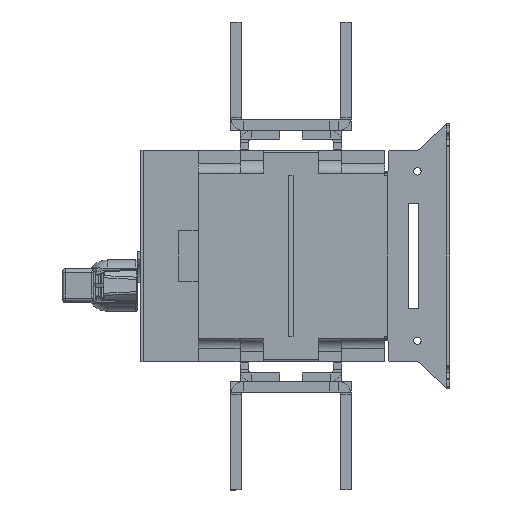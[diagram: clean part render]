
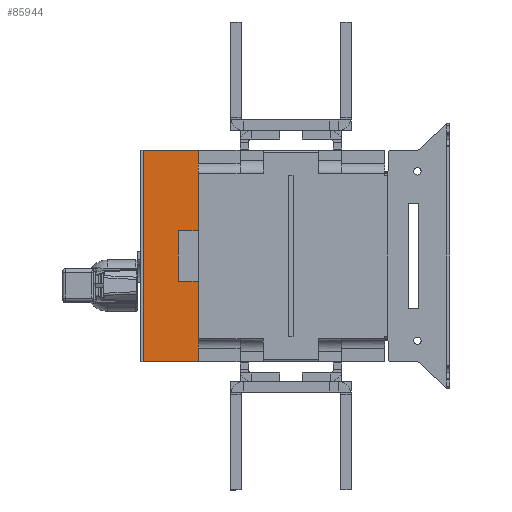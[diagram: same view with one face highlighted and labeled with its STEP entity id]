
A CAD part, left-side view. The second image highlights one B-rep face of the part: STEP entity #85944.
In plain terms, the highlighted planar face has unit normal (-1, 0, -0.001).
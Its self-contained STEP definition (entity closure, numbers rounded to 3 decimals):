
#3318 = CARTESIAN_POINT ( 'NONE',  ( -65.1, 137.5, 100. ) ) ;
#4001 = VECTOR ( 'NONE', #5051, 1000. ) ;
#4702 = EDGE_CURVE ( 'NONE', #95452, #90313, #85842, .T. ) ;
#5051 = DIRECTION ( 'NONE',  ( 0., -1., 0. ) ) ;
#6143 = VECTOR ( 'NONE', #52738, 1000. ) ;
#7891 = EDGE_CURVE ( 'NONE', #96075, #98993, #98636, .T. ) ;
#9108 = LINE ( 'NONE', #95794, #6143 ) ;
#12410 = VERTEX_POINT ( 'NONE', #3318 ) ;
#13150 = ORIENTED_EDGE ( 'NONE', *, *, #98826, .F. ) ;
#13524 = EDGE_CURVE ( 'NONE', #12410, #98993, #9108, .T. ) ;
#15482 = VERTEX_POINT ( 'NONE', #69448 ) ;
#19273 = EDGE_CURVE ( 'NONE', #95452, #12410, #66675, .T. ) ;
#20838 = CARTESIAN_POINT ( 'NONE',  ( -65., 104.2, -100. ) ) ;
#21471 = CARTESIAN_POINT ( 'NONE',  ( -65.038, 137.5, -24. ) ) ;
#23018 = VECTOR ( 'NONE', #41980, 1000. ) ;
#24234 = CARTESIAN_POINT ( 'NONE',  ( -65.062, 85.5, 24. ) ) ;
#25432 = CARTESIAN_POINT ( 'NONE',  ( -65., 137.5, -100. ) ) ;
#27867 = EDGE_LOOP ( 'NONE', ( #81962, #29738, #65506, #99438, #79658, #50183, #13150, #37300 ) ) ;
#29738 = ORIENTED_EDGE ( 'NONE', *, *, #7891, .T. ) ;
#31676 = CARTESIAN_POINT ( 'NONE',  ( -65.1, 85.5, 100. ) ) ;
#32993 = EDGE_CURVE ( 'NONE', #90313, #15482, #104339, .T. ) ;
#34849 = CARTESIAN_POINT ( 'NONE',  ( -65., 137.5, -100. ) ) ;
#37245 = VERTEX_POINT ( 'NONE', #102187 ) ;
#37300 = ORIENTED_EDGE ( 'NONE', *, *, #108480, .T. ) ;
#41273 = CARTESIAN_POINT ( 'NONE',  ( -65.062, 137.5, 24. ) ) ;
#41849 = FACE_OUTER_BOUND ( 'NONE', #27867, .T. ) ;
#41980 = DIRECTION ( 'NONE',  ( 0., 0., 1. ) ) ;
#50183 = ORIENTED_EDGE ( 'NONE', *, *, #32993, .T. ) ;
#52738 = DIRECTION ( 'NONE',  ( 0., -1., 0. ) ) ;
#55433 = DIRECTION ( 'NONE',  ( 0., 0., 1. ) ) ;
#55484 = VECTOR ( 'NONE', #76368, 1000. ) ;
#62831 = LINE ( 'NONE', #21471, #4001 ) ;
#65506 = ORIENTED_EDGE ( 'NONE', *, *, #13524, .F. ) ;
#66579 = VECTOR ( 'NONE', #84259, 1000. ) ;
#66675 = LINE ( 'NONE', #75205, #66579 ) ;
#69381 = DIRECTION ( 'NONE',  ( 0., -1., 0. ) ) ;
#69448 = CARTESIAN_POINT ( 'NONE',  ( -65.038, 85.5, -24. ) ) ;
#71396 = CARTESIAN_POINT ( 'NONE',  ( -65., 85.5, -100. ) ) ;
#72356 = LINE ( 'NONE', #20838, #80201 ) ;
#72527 = VECTOR ( 'NONE', #87865, 1000. ) ;
#75205 = CARTESIAN_POINT ( 'NONE',  ( -65., 137.5, -100. ) ) ;
#76368 = DIRECTION ( 'NONE',  ( 0., 1., 0. ) ) ;
#76416 = PLANE ( 'NONE',  #82513 ) ;
#78301 = VERTEX_POINT ( 'NONE', #110568 ) ;
#78998 = VECTOR ( 'NONE', #69381, 1000. ) ;
#79658 = ORIENTED_EDGE ( 'NONE', *, *, #4702, .T. ) ;
#80201 = VECTOR ( 'NONE', #55433, 1000. ) ;
#81962 = ORIENTED_EDGE ( 'NONE', *, *, #106444, .F. ) ;
#82513 = AXIS2_PLACEMENT_3D ( 'NONE', #25432, #111039, #102573 ) ;
#84259 = DIRECTION ( 'NONE',  ( 0., 0., 1. ) ) ;
#85043 = CARTESIAN_POINT ( 'NONE',  ( -65., 85.5, -100. ) ) ;
#85842 = LINE ( 'NONE', #34849, #78998 ) ;
#85944 = ADVANCED_FACE ( 'NONE', ( #41849 ), #76416, .F. ) ;
#87865 = DIRECTION ( 'NONE',  ( 0., 0., 1. ) ) ;
#88060 = CARTESIAN_POINT ( 'NONE',  ( -65., 137.5, -100. ) ) ;
#90313 = VERTEX_POINT ( 'NONE', #110063 ) ;
#95452 = VERTEX_POINT ( 'NONE', #88060 ) ;
#95794 = CARTESIAN_POINT ( 'NONE',  ( -65.1, 137.5, 100. ) ) ;
#96075 = VERTEX_POINT ( 'NONE', #24234 ) ;
#98636 = LINE ( 'NONE', #71396, #72527 ) ;
#98826 = EDGE_CURVE ( 'NONE', #37245, #15482, #62831, .T. ) ;
#98993 = VERTEX_POINT ( 'NONE', #31676 ) ;
#99438 = ORIENTED_EDGE ( 'NONE', *, *, #19273, .F. ) ;
#102187 = CARTESIAN_POINT ( 'NONE',  ( -65.038, 104.2, -24. ) ) ;
#102536 = LINE ( 'NONE', #41273, #55484 ) ;
#102573 = DIRECTION ( 'NONE',  ( 0., 0., -1. ) ) ;
#104339 = LINE ( 'NONE', #85043, #23018 ) ;
#106444 = EDGE_CURVE ( 'NONE', #96075, #78301, #102536, .T. ) ;
#108480 = EDGE_CURVE ( 'NONE', #37245, #78301, #72356, .T. ) ;
#110063 = CARTESIAN_POINT ( 'NONE',  ( -65., 85.5, -100. ) ) ;
#110568 = CARTESIAN_POINT ( 'NONE',  ( -65.062, 104.2, 24. ) ) ;
#111039 = DIRECTION ( 'NONE',  ( 1., 0., 0. ) ) ;
